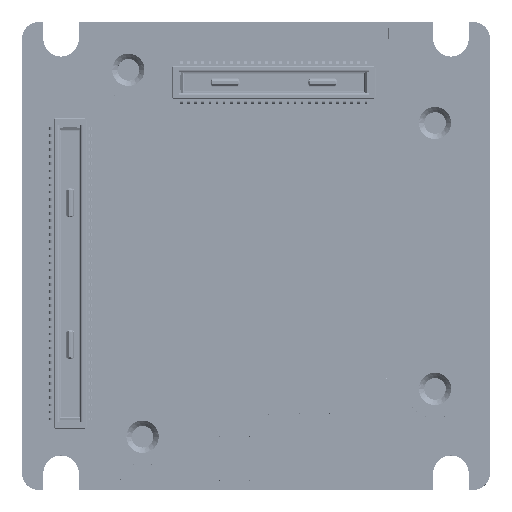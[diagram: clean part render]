
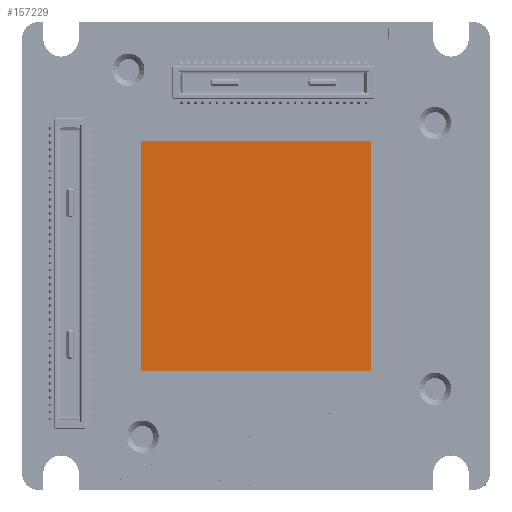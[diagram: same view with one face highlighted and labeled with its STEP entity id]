
A CAD part, top view. The second image highlights one B-rep face of the part: STEP entity #157229.
In plain terms, the highlighted planar face has unit normal (0, 0, 1).
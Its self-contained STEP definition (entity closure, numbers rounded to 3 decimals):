
#11904 = VECTOR ( 'NONE', #246578, 1000. ) ;
#23512 = VECTOR ( 'NONE', #291400, 1000. ) ;
#53911 = VERTEX_POINT ( 'NONE', #518438 ) ;
#58792 = EDGE_CURVE ( 'NONE', #535815, #564950, #245322, .T. ) ;
#73701 = PLANE ( 'NONE',  #687200 ) ;
#90647 = EDGE_CURVE ( 'NONE', #53911, #535815, #585916, .T. ) ;
#114289 = CARTESIAN_POINT ( 'NONE',  ( 6.5, 6.5, 6.162 ) ) ;
#130487 = CARTESIAN_POINT ( 'NONE',  ( -6.5, -6.5, 6.162 ) ) ;
#157229 = ADVANCED_FACE ( 'NONE', ( #304756 ), #73701, .F. ) ;
#245322 = LINE ( 'NONE', #715011, #591746 ) ;
#245948 = CARTESIAN_POINT ( 'NONE',  ( 6.5, 6.5, 6.162 ) ) ;
#246578 = DIRECTION ( 'NONE',  ( 1., 0., 0. ) ) ;
#250980 = CARTESIAN_POINT ( 'NONE',  ( 0., 0., 6.162 ) ) ;
#291400 = DIRECTION ( 'NONE',  ( 0., -1., 0. ) ) ;
#304756 = FACE_OUTER_BOUND ( 'NONE', #666941, .T. ) ;
#315493 = LINE ( 'NONE', #488859, #11904 ) ;
#325231 = ORIENTED_EDGE ( 'NONE', *, *, #508042, .F. ) ;
#353571 = CARTESIAN_POINT ( 'NONE',  ( -6.5, 6.5, 6.162 ) ) ;
#354868 = CARTESIAN_POINT ( 'NONE',  ( 6.5, -6.5, 6.162 ) ) ;
#354964 = DIRECTION ( 'NONE',  ( 0., 0., -1. ) ) ;
#358698 = DIRECTION ( 'NONE',  ( -1., 0., 0. ) ) ;
#392688 = LINE ( 'NONE', #114289, #23512 ) ;
#416969 = VECTOR ( 'NONE', #358698, 1000. ) ;
#421091 = ORIENTED_EDGE ( 'NONE', *, *, #58792, .F. ) ;
#485768 = DIRECTION ( 'NONE',  ( 0., -1., 0. ) ) ;
#488859 = CARTESIAN_POINT ( 'NONE',  ( -6.5, 6.5, 6.162 ) ) ;
#498254 = EDGE_CURVE ( 'NONE', #564950, #541914, #315493, .T. ) ;
#508042 = EDGE_CURVE ( 'NONE', #541914, #53911, #392688, .T. ) ;
#518438 = CARTESIAN_POINT ( 'NONE',  ( 6.5, -6.5, 6.162 ) ) ;
#535815 = VERTEX_POINT ( 'NONE', #130487 ) ;
#541914 = VERTEX_POINT ( 'NONE', #245948 ) ;
#564950 = VERTEX_POINT ( 'NONE', #353571 ) ;
#585916 = LINE ( 'NONE', #354868, #416969 ) ;
#591746 = VECTOR ( 'NONE', #722568, 1000. ) ;
#666941 = EDGE_LOOP ( 'NONE', ( #759421, #325231, #708687, #421091 ) ) ;
#687200 = AXIS2_PLACEMENT_3D ( 'NONE', #250980, #354964, #485768 ) ;
#708687 = ORIENTED_EDGE ( 'NONE', *, *, #498254, .F. ) ;
#715011 = CARTESIAN_POINT ( 'NONE',  ( -6.5, -6.5, 6.162 ) ) ;
#722568 = DIRECTION ( 'NONE',  ( 0., 1., 0. ) ) ;
#759421 = ORIENTED_EDGE ( 'NONE', *, *, #90647, .F. ) ;
